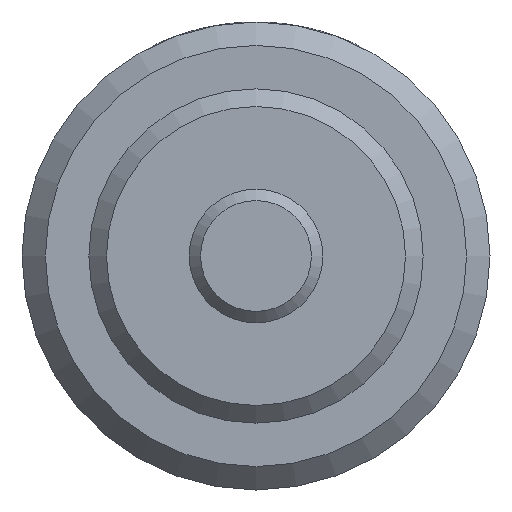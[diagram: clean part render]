
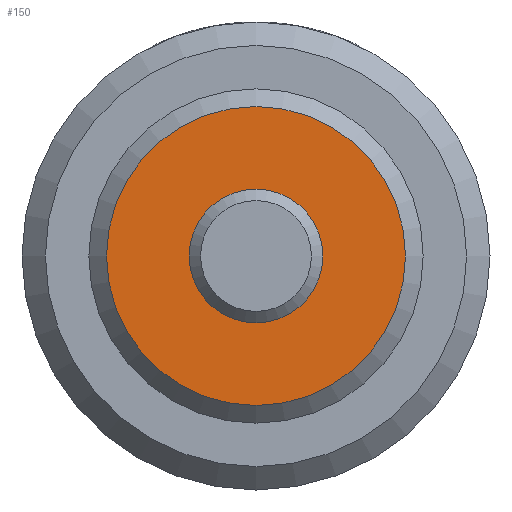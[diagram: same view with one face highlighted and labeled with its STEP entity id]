
A CAD part, left-side view. The second image highlights one B-rep face of the part: STEP entity #150.
In plain terms, the highlighted planar face has unit normal (-1, 0, 0).
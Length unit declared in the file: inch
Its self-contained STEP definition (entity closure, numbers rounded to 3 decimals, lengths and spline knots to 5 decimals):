
#150 = ADVANCED_FACE( '', ( #309, #310 ), #311, .F. );
#309 = FACE_OUTER_BOUND( '', #489, .T. );
#310 = FACE_BOUND( '', #490, .T. );
#311 = PLANE( '', #491 );
#489 = EDGE_LOOP( '', ( #710 ) );
#490 = EDGE_LOOP( '', ( #711 ) );
#491 = AXIS2_PLACEMENT_3D( '', #712, #713, #714 );
#710 = ORIENTED_EDGE( '', *, *, #938, .F. );
#711 = ORIENTED_EDGE( '', *, *, #940, .T. );
#712 = CARTESIAN_POINT( '', ( 0., 0., 0. ) );
#713 = DIRECTION( '', ( 1., 0., 0. ) );
#714 = DIRECTION( '', ( 0., 0., -1. ) );
#938 = EDGE_CURVE( '', #1079, #1079, #1080, .T. );
#940 = EDGE_CURVE( '', #1082, #1082, #1083, .T. );
#1079 = VERTEX_POINT( '', #1248 );
#1080 = CIRCLE( '', #1249, 0.27945 );
#1082 = VERTEX_POINT( '', #1251 );
#1083 = CIRCLE( '', #1252, 0.125 );
#1248 = CARTESIAN_POINT( '', ( 0., 0., -0.27945 ) );
#1249 = AXIS2_PLACEMENT_3D( '', #1559, #1560, #1561 );
#1251 = CARTESIAN_POINT( '', ( 0., 0., -0.125 ) );
#1252 = AXIS2_PLACEMENT_3D( '', #1562, #1563, #1564 );
#1559 = CARTESIAN_POINT( '', ( 0., 0., 0. ) );
#1560 = DIRECTION( '', ( 1., 0., 0. ) );
#1561 = DIRECTION( '', ( 0., 0., -1. ) );
#1562 = CARTESIAN_POINT( '', ( 0., 0., 0. ) );
#1563 = DIRECTION( '', ( 1., 0., 0. ) );
#1564 = DIRECTION( '', ( 0., 0., -1. ) );
